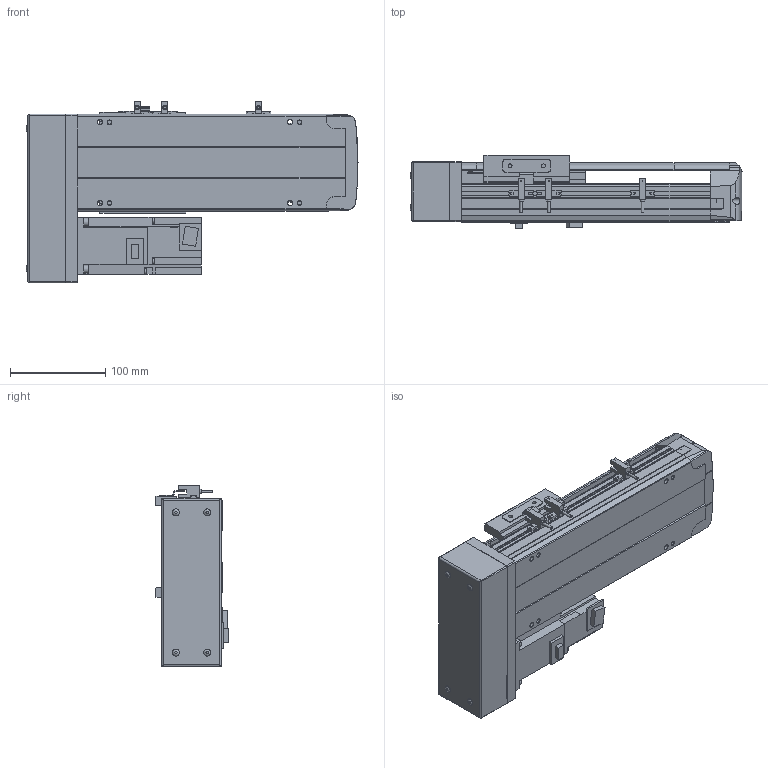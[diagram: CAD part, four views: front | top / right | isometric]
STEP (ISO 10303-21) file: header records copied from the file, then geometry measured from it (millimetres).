
FILE_DESCRIPTION( ( 'STEP AP214' ), '1' );
FILE_NAME( 'x:/temp/worker_27/temp/exporttempdir_6708_90_Mxz5J/format_0/PSS120-L10-S100-BR-T40-C1-N(0).stp', '2022-06-06T00:30:01', ( 'License CC BY-ND 4.0' ), ( 'CADENAS' ), ' ', 'PARTsolutions', ' ' );
FILE_SCHEMA( ( 'AUTOMOTIVE_DESIGN { 1 0 10303 214 1 1 1 1 }' ) );
Length unit declared in the file: millimetre
Products named in the file (8): PSS120-L10-S100-BR-T40-C1-N(0); _PSS120-S100-BR-C1-N_body; _PSS120-N_Q; _PSS120-BR-C1-N_sl; _PSS120-N_sensor; _PSS120BR-N_h; _T40-p1; _PSS120-S100-BR-N_S
Assembly tree (9 placements, depth 2):
  PSS120-L10-S100-BR-T40-C1-N(0)
    _PSS120-S100-BR-C1-N_body
    _PSS120-N_Q
    _PSS120-BR-C1-N_sl
    _PSS120-N_sensor  x3
    _PSS120BR-N_h
    _T40-p1
    _PSS120-S100-BR-N_S
Bounding box: 349.35 x 76.8 x 191.2 mm (x, y, z)
Volume: 1997425.1 mm3; surface area: 332265.6 mm2
Topology: 9 solids, 9 shells, 784 faces, 2109 edges, 1396 vertices
Faces by surface type: plane 571, cylinder 197, cone 12, sphere 4
Full cylindrical faces by diameter (mm): 2.8 x3, 4 x4, 4.134 x8, 4.4 x2, 4.5 x4, 4.6 x3, 5 x6, 5.5 x11, 7 x2, 7.4 x4, 8 x4, 8.5 x8, 14 x1, 28 x1, 32 x2, 50 x1
Entity records: 26725 total; most frequent: CARTESIAN_POINT 4059, DIRECTION 3507, ORIENTED_EDGE 3466, EDGE_CURVE 1733, LINE 1283, VECTOR 1283, VERTEX_POINT 1188, AXIS2_PLACEMENT_3D 1112
